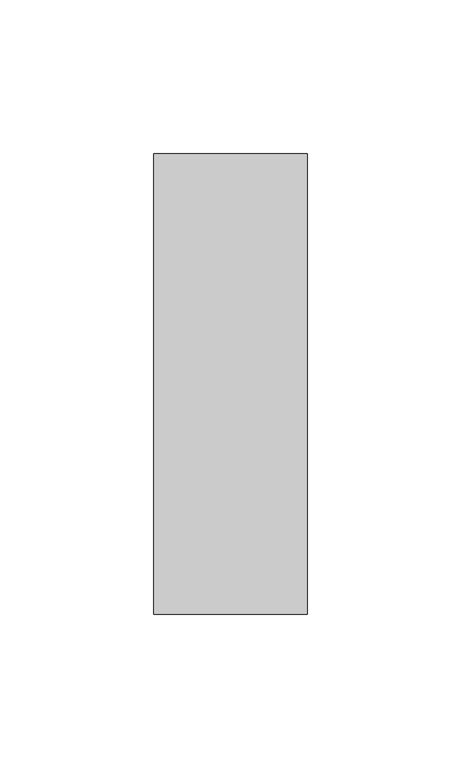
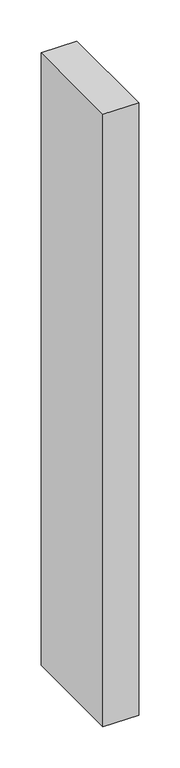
"""IFC4 building model written with IfcOpenShell, lengths in millimetres: member geometry, Прямоугольный импост : 50 x 150 мм."""

from ifc_helpers import new_model, si_unit, frame, origin, place, context, project, spatial, polyline, outline, extrude, source, transform, mapped, element, save


def member_41b6259b(model_context):
    return source(origin(), model_context, "Body", "SweptSolid", [
        extrude(outline(polyline([(25.0, 75.0), (25.0, -75.0), (-25.0, -75.0), (-25.0, 75.0), (25.0, 75.0)])), frame((0.0, 0.0, -907.7245088), z_axis=(0.0, 0.0, 1.0), x_axis=(1.0, 0.0, 0.0)), (0.0, 0.0, 1.0), 907.7245088),
    ])


if __name__ == "__main__":
    model = new_model("IFC4")
    model_context = context("Model", 3, world=origin())
    ifc_project = project(units=[si_unit("LENGTHUNIT", "METRE", prefix="MILLI")], contexts=[model_context])
    site = spatial("IfcSite", under=ifc_project)
    building = spatial("IfcBuilding", under=site)
    placement = place(None, origin())
    member_shape = member_41b6259b(model_context)
    element("IfcMember", 1, ObjectType="Прямоугольный импост : 50 x 150 мм", at=placement, inside=building, context=model_context, shape_type="MappedRepresentation", body=[
        mapped(member_shape, transform((0.0, 0.0, 0.0), x_axis=(1.0, 0.0, 0.0), y_axis=(0.0, 1.0, 0.0), z_axis=(0.0, 0.0, 1.0))),
    ])
    save(model, "model.ifc")
